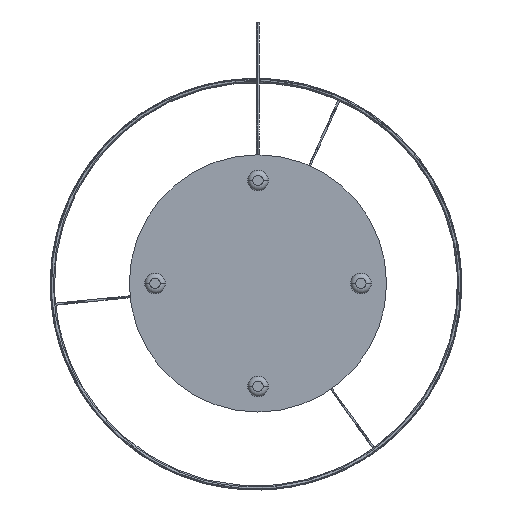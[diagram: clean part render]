
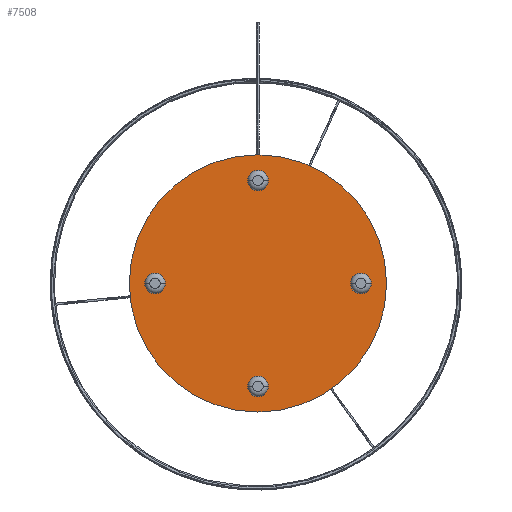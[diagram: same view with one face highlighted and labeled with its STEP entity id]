
A CAD part, front view. The second image highlights one B-rep face of the part: STEP entity #7508.
In plain terms, the highlighted planar face has unit normal (0, -1, 0) as drawn and (1, 0, 0) by its records, which use the part's own axes.
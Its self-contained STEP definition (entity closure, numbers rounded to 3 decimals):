
#148 = CARTESIAN_POINT ( 'NONE',  ( 360., 0., -100. ) ) ;
#179 = CARTESIAN_POINT ( 'NONE',  ( 360., 125., 0. ) ) ;
#270 = CARTESIAN_POINT ( 'NONE',  ( 360., -125., 0. ) ) ;
#443 = VERTEX_POINT ( 'NONE', #1181 ) ;
#500 = CIRCLE ( 'NONE', #3269, 10. ) ;
#630 = CARTESIAN_POINT ( 'NONE',  ( 360., -100., 0. ) ) ;
#760 = ORIENTED_EDGE ( 'NONE', *, *, #8851, .F. ) ;
#831 = CARTESIAN_POINT ( 'NONE',  ( 360., 0., 0. ) ) ;
#1018 = DIRECTION ( 'NONE',  ( 1., 0., 0. ) ) ;
#1181 = CARTESIAN_POINT ( 'NONE',  ( 360., -110., 0. ) ) ;
#1376 = DIRECTION ( 'NONE',  ( 1., 0., 0. ) ) ;
#1947 = CIRCLE ( 'NONE', #4421, 10. ) ;
#2143 = ORIENTED_EDGE ( 'NONE', *, *, #8442, .T. ) ;
#2298 = FACE_BOUND ( 'NONE', #9821, .T. ) ;
#2337 = AXIS2_PLACEMENT_3D ( 'NONE', #14157, #5302, #9647 ) ;
#2605 = EDGE_CURVE ( 'NONE', #2984, #9911, #1947, .T. ) ;
#2984 = VERTEX_POINT ( 'NONE', #13772 ) ;
#3153 = ORIENTED_EDGE ( 'NONE', *, *, #2605, .F. ) ;
#3259 = DIRECTION ( 'NONE',  ( 0., 1., 0. ) ) ;
#3269 = AXIS2_PLACEMENT_3D ( 'NONE', #630, #5268, #15650 ) ;
#3360 = CARTESIAN_POINT ( 'NONE',  ( 360., 0., 100. ) ) ;
#3633 = CIRCLE ( 'NONE', #16844, 10. ) ;
#3755 = FACE_OUTER_BOUND ( 'NONE', #18314, .T. ) ;
#3954 = VERTEX_POINT ( 'NONE', #12214 ) ;
#3965 = CARTESIAN_POINT ( 'NONE',  ( 360., 100., 0. ) ) ;
#4265 = DIRECTION ( 'NONE',  ( 0., 1., 0. ) ) ;
#4421 = AXIS2_PLACEMENT_3D ( 'NONE', #15815, #9864, #4265 ) ;
#5017 = FACE_BOUND ( 'NONE', #18373, .T. ) ;
#5268 = DIRECTION ( 'NONE',  ( 1., 0., 0. ) ) ;
#5302 = DIRECTION ( 'NONE',  ( 1., 0., 0. ) ) ;
#5765 = CARTESIAN_POINT ( 'NONE',  ( 360., -100., 0. ) ) ;
#5869 = EDGE_CURVE ( 'NONE', #16949, #443, #500, .T. ) ;
#6034 = DIRECTION ( 'NONE',  ( 1., 0., 0. ) ) ;
#6063 = DIRECTION ( 'NONE',  ( 1., 0., 0. ) ) ;
#6096 = CIRCLE ( 'NONE', #11030, 10. ) ;
#6859 = DIRECTION ( 'NONE',  ( 1., 0., 0. ) ) ;
#7283 = VERTEX_POINT ( 'NONE', #9804 ) ;
#7508 = ADVANCED_FACE ( 'NONE', ( #5017, #10895, #18476, #2298, #3755 ), #15773, .T. ) ;
#7854 = EDGE_CURVE ( 'NONE', #7930, #7283, #18527, .T. ) ;
#7930 = VERTEX_POINT ( 'NONE', #10160 ) ;
#8078 = ORIENTED_EDGE ( 'NONE', *, *, #12395, .F. ) ;
#8184 = DIRECTION ( 'NONE',  ( 0., 1., 0. ) ) ;
#8412 = AXIS2_PLACEMENT_3D ( 'NONE', #13189, #10502, #3259 ) ;
#8442 = EDGE_CURVE ( 'NONE', #8816, #9929, #13632, .T. ) ;
#8809 = EDGE_CURVE ( 'NONE', #3954, #11309, #10870, .T. ) ;
#8816 = VERTEX_POINT ( 'NONE', #270 ) ;
#8851 = EDGE_CURVE ( 'NONE', #11309, #3954, #11779, .T. ) ;
#9333 = AXIS2_PLACEMENT_3D ( 'NONE', #148, #6034, #16421 ) ;
#9404 = ORIENTED_EDGE ( 'NONE', *, *, #13768, .F. ) ;
#9647 = DIRECTION ( 'NONE',  ( 0., 1., 0. ) ) ;
#9804 = CARTESIAN_POINT ( 'NONE',  ( 360., 10., -100. ) ) ;
#9821 = EDGE_LOOP ( 'NONE', ( #3153, #8078 ) ) ;
#9864 = DIRECTION ( 'NONE',  ( 1., 0., 0. ) ) ;
#9882 = CARTESIAN_POINT ( 'NONE',  ( 360., -90., 0. ) ) ;
#9911 = VERTEX_POINT ( 'NONE', #17801 ) ;
#9929 = VERTEX_POINT ( 'NONE', #179 ) ;
#9955 = DIRECTION ( 'NONE',  ( 1., 0., 0. ) ) ;
#10093 = AXIS2_PLACEMENT_3D ( 'NONE', #831, #1018, #8184 ) ;
#10160 = CARTESIAN_POINT ( 'NONE',  ( 360., -10., -100. ) ) ;
#10502 = DIRECTION ( 'NONE',  ( 1., 0., 0. ) ) ;
#10707 = CARTESIAN_POINT ( 'NONE',  ( 360., 10., 100. ) ) ;
#10870 = CIRCLE ( 'NONE', #12699, 10. ) ;
#10895 = FACE_BOUND ( 'NONE', #15700, .T. ) ;
#11030 = AXIS2_PLACEMENT_3D ( 'NONE', #11394, #9955, #12561 ) ;
#11309 = VERTEX_POINT ( 'NONE', #10707 ) ;
#11377 = ORIENTED_EDGE ( 'NONE', *, *, #8809, .F. ) ;
#11394 = CARTESIAN_POINT ( 'NONE',  ( 360., 0., -100. ) ) ;
#11608 = ORIENTED_EDGE ( 'NONE', *, *, #14431, .T. ) ;
#11637 = DIRECTION ( 'NONE',  ( 0., 1., 0. ) ) ;
#11695 = CARTESIAN_POINT ( 'NONE',  ( 360., 0., 0. ) ) ;
#11735 = ORIENTED_EDGE ( 'NONE', *, *, #5869, .F. ) ;
#11779 = CIRCLE ( 'NONE', #8412, 10. ) ;
#12034 = ORIENTED_EDGE ( 'NONE', *, *, #7854, .F. ) ;
#12214 = CARTESIAN_POINT ( 'NONE',  ( 360., -10., 100. ) ) ;
#12395 = EDGE_CURVE ( 'NONE', #9911, #2984, #17958, .T. ) ;
#12561 = DIRECTION ( 'NONE',  ( 0., 1., 0. ) ) ;
#12699 = AXIS2_PLACEMENT_3D ( 'NONE', #3360, #6063, #16541 ) ;
#13189 = CARTESIAN_POINT ( 'NONE',  ( 360., 0., 100. ) ) ;
#13632 = CIRCLE ( 'NONE', #14236, 125. ) ;
#13768 = EDGE_CURVE ( 'NONE', #7283, #7930, #6096, .T. ) ;
#13772 = CARTESIAN_POINT ( 'NONE',  ( 360., 90., 0. ) ) ;
#14157 = CARTESIAN_POINT ( 'NONE',  ( 360., 0., 0. ) ) ;
#14165 = EDGE_CURVE ( 'NONE', #443, #16949, #3633, .T. ) ;
#14236 = AXIS2_PLACEMENT_3D ( 'NONE', #11695, #1376, #15924 ) ;
#14331 = DIRECTION ( 'NONE',  ( 1., 0., 0. ) ) ;
#14431 = EDGE_CURVE ( 'NONE', #9929, #8816, #18074, .T. ) ;
#15502 = AXIS2_PLACEMENT_3D ( 'NONE', #3965, #6859, #18774 ) ;
#15650 = DIRECTION ( 'NONE',  ( 0., 1., 0. ) ) ;
#15700 = EDGE_LOOP ( 'NONE', ( #16509, #11735 ) ) ;
#15773 = PLANE ( 'NONE',  #2337 ) ;
#15815 = CARTESIAN_POINT ( 'NONE',  ( 360., 100., 0. ) ) ;
#15924 = DIRECTION ( 'NONE',  ( 0., 1., 0. ) ) ;
#16421 = DIRECTION ( 'NONE',  ( 0., 1., 0. ) ) ;
#16456 = EDGE_LOOP ( 'NONE', ( #12034, #9404 ) ) ;
#16509 = ORIENTED_EDGE ( 'NONE', *, *, #14165, .F. ) ;
#16541 = DIRECTION ( 'NONE',  ( 0., 1., 0. ) ) ;
#16844 = AXIS2_PLACEMENT_3D ( 'NONE', #5765, #14331, #11637 ) ;
#16949 = VERTEX_POINT ( 'NONE', #9882 ) ;
#17801 = CARTESIAN_POINT ( 'NONE',  ( 360., 110., 0. ) ) ;
#17958 = CIRCLE ( 'NONE', #15502, 10. ) ;
#18074 = CIRCLE ( 'NONE', #10093, 125. ) ;
#18314 = EDGE_LOOP ( 'NONE', ( #2143, #11608 ) ) ;
#18373 = EDGE_LOOP ( 'NONE', ( #11377, #760 ) ) ;
#18476 = FACE_BOUND ( 'NONE', #16456, .T. ) ;
#18527 = CIRCLE ( 'NONE', #9333, 10. ) ;
#18774 = DIRECTION ( 'NONE',  ( 0., 1., 0. ) ) ;
